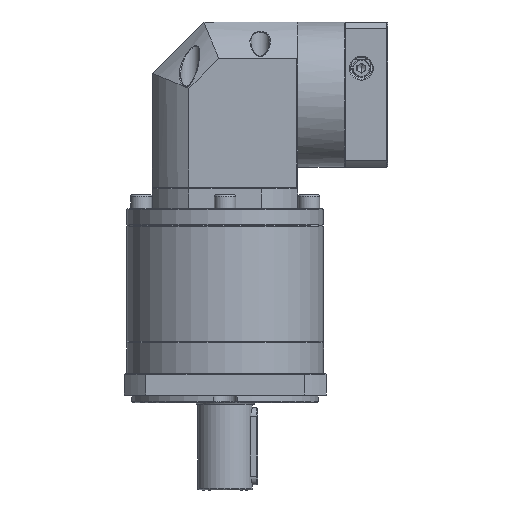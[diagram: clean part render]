
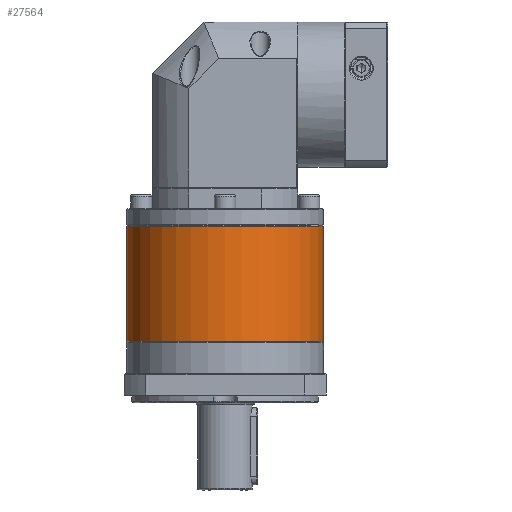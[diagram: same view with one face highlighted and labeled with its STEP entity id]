
A CAD part, front view. The second image highlights one B-rep face of the part: STEP entity #27564.
In plain terms, the highlighted cylindrical face has radius 57.5 mm (diameter 115 mm), a partial arc.
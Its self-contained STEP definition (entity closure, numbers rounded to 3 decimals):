
#2128 = EDGE_CURVE ( 'NONE', #103935, #108223, #10952, .T. ) ;
#6812 = CARTESIAN_POINT ( 'NONE',  ( 71.296, 63.298, -72.818 ) ) ;
#8423 = CIRCLE ( 'NONE', #89775, 57.5 ) ;
#10204 = DIRECTION ( 'NONE',  ( 0., 0., -1. ) ) ;
#10952 = CIRCLE ( 'NONE', #81894, 57.5 ) ;
#13173 = ORIENTED_EDGE ( 'NONE', *, *, #139315, .T. ) ;
#15522 = CYLINDRICAL_SURFACE ( 'NONE', #92880, 57.5 ) ;
#15783 = LINE ( 'NONE', #16734, #131296 ) ;
#16734 = CARTESIAN_POINT ( 'NONE',  ( 128.796, 63.298, -72.318 ) ) ;
#21871 = CARTESIAN_POINT ( 'NONE',  ( 13.796, 63.298, -72.318 ) ) ;
#25209 = AXIS2_PLACEMENT_3D ( 'NONE', #97121, #10204, #107115 ) ;
#27564 = ADVANCED_FACE ( 'NONE', ( #122600 ), #15522, .T. ) ;
#34874 = CARTESIAN_POINT ( 'NONE',  ( 71.296, 63.298, -140.03 ) ) ;
#47299 = VECTOR ( 'NONE', #119721, 1000. ) ;
#51015 = CIRCLE ( 'NONE', #25209, 57.5 ) ;
#52096 = VERTEX_POINT ( 'NONE', #127616 ) ;
#56592 = DIRECTION ( 'NONE',  ( 0., 0., 1. ) ) ;
#57296 = CARTESIAN_POINT ( 'NONE',  ( 13.796, 63.298, -72.818 ) ) ;
#64215 = EDGE_CURVE ( 'NONE', #97916, #103935, #51015, .T. ) ;
#77590 = DIRECTION ( 'NONE',  ( 0., 0., -1. ) ) ;
#81894 = AXIS2_PLACEMENT_3D ( 'NONE', #6812, #93213, #126393 ) ;
#87571 = CARTESIAN_POINT ( 'NONE',  ( 71.296, 63.298, -72.318 ) ) ;
#88023 = ORIENTED_EDGE ( 'NONE', *, *, #64215, .T. ) ;
#89775 = AXIS2_PLACEMENT_3D ( 'NONE', #34874, #56592, #120784 ) ;
#90991 = ORIENTED_EDGE ( 'NONE', *, *, #140161, .F. ) ;
#92880 = AXIS2_PLACEMENT_3D ( 'NONE', #87571, #77590, #122186 ) ;
#93213 = DIRECTION ( 'NONE',  ( 0., 0., -1. ) ) ;
#97121 = CARTESIAN_POINT ( 'NONE',  ( 71.296, 63.298, -72.818 ) ) ;
#97916 = VERTEX_POINT ( 'NONE', #139432 ) ;
#103935 = VERTEX_POINT ( 'NONE', #104713 ) ;
#104713 = CARTESIAN_POINT ( 'NONE',  ( 71.296, 5.798, -72.818 ) ) ;
#106332 = EDGE_CURVE ( 'NONE', #118446, #52096, #8423, .T. ) ;
#107115 = DIRECTION ( 'NONE',  ( -1., 0., 0. ) ) ;
#108223 = VERTEX_POINT ( 'NONE', #57296 ) ;
#111269 = ORIENTED_EDGE ( 'NONE', *, *, #106332, .T. ) ;
#113641 = DIRECTION ( 'NONE',  ( 0., 0., -1. ) ) ;
#115358 = LINE ( 'NONE', #21871, #47299 ) ;
#118446 = VERTEX_POINT ( 'NONE', #127608 ) ;
#118864 = EDGE_LOOP ( 'NONE', ( #90991, #88023, #133078, #13173, #111269 ) ) ;
#119721 = DIRECTION ( 'NONE',  ( 0., 0., -1. ) ) ;
#120784 = DIRECTION ( 'NONE',  ( -1., 0., 0. ) ) ;
#122186 = DIRECTION ( 'NONE',  ( -1., 0., 0. ) ) ;
#122600 = FACE_OUTER_BOUND ( 'NONE', #118864, .T. ) ;
#126393 = DIRECTION ( 'NONE',  ( -1., 0., 0. ) ) ;
#127608 = CARTESIAN_POINT ( 'NONE',  ( 13.796, 63.298, -140.03 ) ) ;
#127616 = CARTESIAN_POINT ( 'NONE',  ( 128.796, 63.298, -140.03 ) ) ;
#131296 = VECTOR ( 'NONE', #113641, 1000. ) ;
#133078 = ORIENTED_EDGE ( 'NONE', *, *, #2128, .T. ) ;
#139315 = EDGE_CURVE ( 'NONE', #108223, #118446, #115358, .T. ) ;
#139432 = CARTESIAN_POINT ( 'NONE',  ( 128.796, 63.298, -72.818 ) ) ;
#140161 = EDGE_CURVE ( 'NONE', #97916, #52096, #15783, .T. ) ;
